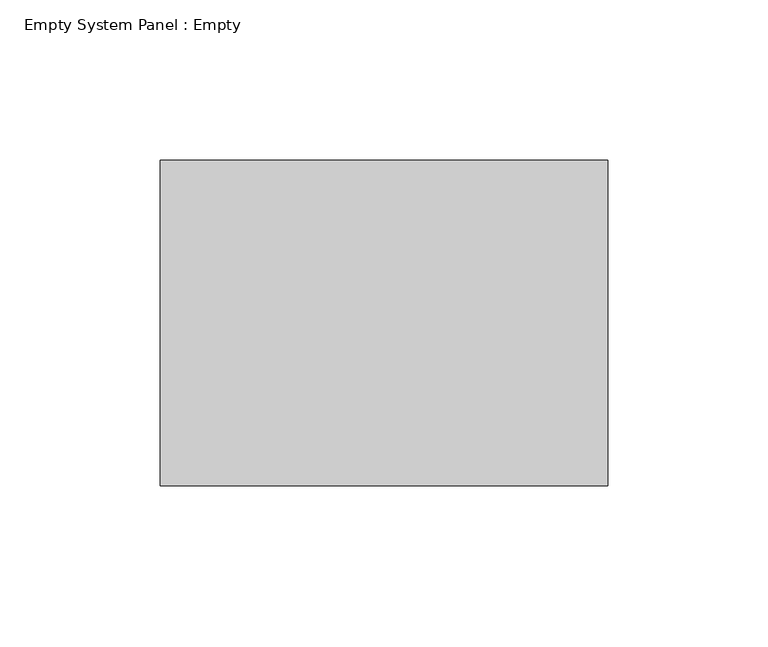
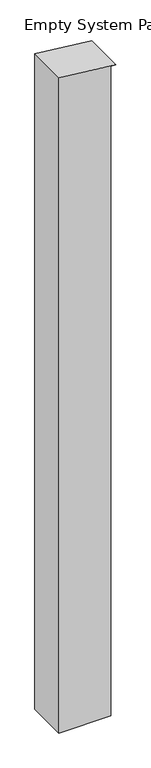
"""IFC4 building model written with IfcOpenShell, lengths in millimetres: plate geometry, Empty System Panel : Empty."""

from ifc_helpers import new_model, si_unit, frame, origin, place, context, project, spatial, polyline, outline, extrude, source, transform, mapped, element, save


def empty_system_panel_empty_1791f81b(model_context):
    return source(origin(), model_context, "Body", "SweptSolid", [
        extrude(outline(polyline([(0.0, -69.85), (0.0, 57.15), (1684.5256599, 57.15), (1684.5256599, 69.85), (1700.1508499, -69.85), (0.0, -69.85)])), frame((0.0, -50.8, 0.0), z_axis=(0.0, 1.0, 0.0), x_axis=(0.0, 0.0, 1.0)), (0.0, 0.0, 1.0), 101.6),
    ])


if __name__ == "__main__":
    model = new_model("IFC4")
    model_context = context("Model", 3, world=origin())
    ifc_project = project(units=[si_unit("LENGTHUNIT", "METRE", prefix="MILLI")], contexts=[model_context])
    site = spatial("IfcSite", under=ifc_project)
    building = spatial("IfcBuilding", under=site)
    placement = place(None, origin())
    empty_system_panel_empty_shape = empty_system_panel_empty_1791f81b(model_context)
    element("IfcPlate", 1, ObjectType="Empty System Panel : Empty", at=placement, inside=building, context=model_context, shape_type="MappedRepresentation", body=[
        mapped(empty_system_panel_empty_shape, transform((0.0, 0.0, 0.0), x_axis=(1.0, 0.0, 0.0), y_axis=(0.0, 1.0, 0.0), z_axis=(0.0, 0.0, 1.0))),
    ])
    save(model, "model.ifc")
